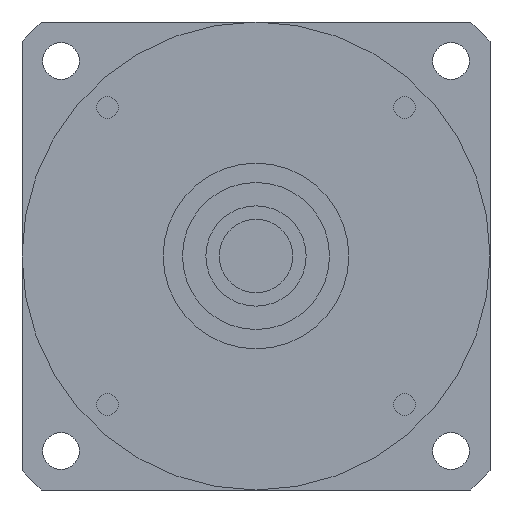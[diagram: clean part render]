
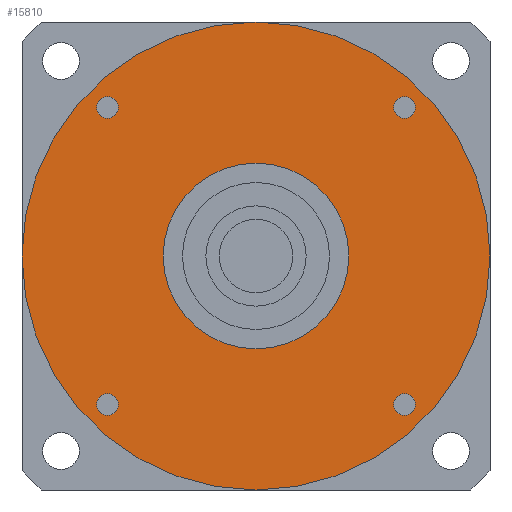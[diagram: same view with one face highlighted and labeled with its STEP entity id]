
A CAD part, left-side view. The second image highlights one B-rep face of the part: STEP entity #15810.
In plain terms, the highlighted planar face has unit normal (-1, 0, 0) as drawn and (0, 0, -1) by its records, which use the part's own axes.
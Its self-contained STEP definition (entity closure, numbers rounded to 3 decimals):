
#14690=CARTESIAN_POINT('',(-70.,0.,-59.701));
#14700=VERTEX_POINT('',#14690);
#14730=CARTESIAN_POINT('',(0.,0.,
-59.701));
#14740=DIRECTION('',(0.,0.,-1.));
#14750=DIRECTION('',(0.,-1.,0.));
#14760=AXIS2_PLACEMENT_3D('',#14730,#14740,#14750);
#14770=CIRCLE('',#14760,70.);
#14780=CARTESIAN_POINT('',(70.,0.,-59.701));
#14790=VERTEX_POINT('',#14780);
#14800=EDGE_CURVE('',#14700,#14790,#14770,.T.);
#14920=CARTESIAN_POINT('',(0.,0.,
-59.701));
#14930=DIRECTION('',(0.,0.,-1.));
#14940=DIRECTION('',(1.,0.,0.));
#14950=AXIS2_PLACEMENT_3D('',#14920,#14930,#14940);
#14960=PLANE('',#14950);
#14970=CARTESIAN_POINT('',(44.449,44.449,-59.701));
#14980=DIRECTION('',(0.,0.,-1.));
#14990=DIRECTION('',(0.,1.,0.));
#15000=AXIS2_PLACEMENT_3D('',#14970,#14980,#14990);
#15010=CIRCLE('',#15000,3.25);
#15020=CARTESIAN_POINT('',(44.449,47.699,-59.701));
#15030=VERTEX_POINT('',#15020);
#15040=CARTESIAN_POINT('',(44.449,41.199,-59.701));
#15050=VERTEX_POINT('',#15040);
#15060=EDGE_CURVE('',#15030,#15050,#15010,.T.);
#15070=ORIENTED_EDGE('',*,*,#15060,.F.);
#15080=EDGE_CURVE('',#15050,#15030,#15010,.T.);
#15090=ORIENTED_EDGE('',*,*,#15080,.F.);
#15100=EDGE_LOOP('',(#15090,#15070));
#15110=FACE_BOUND('',#15100,.T.);
#15120=CARTESIAN_POINT('',(-44.449,44.449,-59.701));
#15130=DIRECTION('',(0.,0.,-1.));
#15140=DIRECTION('',(-1.,0.,0.));
#15150=AXIS2_PLACEMENT_3D('',#15120,#15130,#15140);
#15160=CIRCLE('',#15150,3.25);
#15170=CARTESIAN_POINT('',(-47.699,44.449,-59.701));
#15180=VERTEX_POINT('',#15170);
#15190=CARTESIAN_POINT('',(-41.199,44.449,-59.701));
#15200=VERTEX_POINT('',#15190);
#15210=EDGE_CURVE('',#15180,#15200,#15160,.T.);
#15220=ORIENTED_EDGE('',*,*,#15210,.F.);
#15230=EDGE_CURVE('',#15200,#15180,#15160,.T.);
#15240=ORIENTED_EDGE('',*,*,#15230,.F.);
#15250=EDGE_LOOP('',(#15240,#15220));
#15260=FACE_BOUND('',#15250,.T.);
#15270=CARTESIAN_POINT('',(-44.449,-44.449,-59.701))
;
#15280=DIRECTION('',(0.,0.,-1.));
#15290=DIRECTION('',(0.,-1.,0.));
#15300=AXIS2_PLACEMENT_3D('',#15270,#15280,#15290);
#15310=CIRCLE('',#15300,3.25);
#15320=CARTESIAN_POINT('',(-44.449,-47.699,-59.701))
;
#15330=VERTEX_POINT('',#15320);
#15340=CARTESIAN_POINT('',(-44.449,-41.199,-59.701))
;
#15350=VERTEX_POINT('',#15340);
#15360=EDGE_CURVE('',#15330,#15350,#15310,.T.);
#15370=ORIENTED_EDGE('',*,*,#15360,.F.);
#15380=EDGE_CURVE('',#15350,#15330,#15310,.T.);
#15390=ORIENTED_EDGE('',*,*,#15380,.F.);
#15400=EDGE_LOOP('',(#15390,#15370));
#15410=FACE_BOUND('',#15400,.T.);
#15420=CARTESIAN_POINT('',(0.,0.,
-59.701));
#15430=DIRECTION('',(0.,0.,-1.));
#15440=DIRECTION('',(0.,1.,0.));
#15450=AXIS2_PLACEMENT_3D('',#15420,#15430,#15440);
#15460=CIRCLE('',#15450,27.76);
#15470=CARTESIAN_POINT('',(0.,27.76,-59.701));
#15480=VERTEX_POINT('',#15470);
#15490=CARTESIAN_POINT('',(0.,-27.76,-59.701));
#15500=VERTEX_POINT('',#15490);
#15510=EDGE_CURVE('',#15480,#15500,#15460,.T.);
#15520=ORIENTED_EDGE('',*,*,#15510,.F.);
#15530=EDGE_CURVE('',#15500,#15480,#15460,.T.);
#15540=ORIENTED_EDGE('',*,*,#15530,.F.);
#15550=EDGE_LOOP('',(#15540,#15520));
#15560=FACE_BOUND('',#15550,.T.);
#15570=CARTESIAN_POINT('',(44.449,-44.449,-59.701));
#15580=DIRECTION('',(0.,0.,-1.));
#15590=DIRECTION('',(1.,0.,0.));
#15600=AXIS2_PLACEMENT_3D('',#15570,#15580,#15590);
#15610=CIRCLE('',#15600,3.25);
#15620=CARTESIAN_POINT('',(47.699,-44.449,-59.701));
#15630=VERTEX_POINT('',#15620);
#15640=CARTESIAN_POINT('',(41.199,-44.449,-59.701));
#15650=VERTEX_POINT('',#15640);
#15660=EDGE_CURVE('',#15630,#15650,#15610,.T.);
#15670=ORIENTED_EDGE('',*,*,#15660,.F.);
#15680=EDGE_CURVE('',#15650,#15630,#15610,.T.);
#15690=ORIENTED_EDGE('',*,*,#15680,.F.);
#15700=EDGE_LOOP('',(#15690,#15670));
#15710=FACE_BOUND('',#15700,.T.);
#15720=ORIENTED_EDGE('',*,*,#14800,.T.);
#15730=CARTESIAN_POINT('',(0.,-70.,-59.701));
#15740=VERTEX_POINT('',#15730);
#15750=EDGE_CURVE('',#15740,#14700,#14770,.T.);
#15760=ORIENTED_EDGE('',*,*,#15750,.T.);
#15770=EDGE_CURVE('',#14790,#15740,#14770,.T.);
#15780=ORIENTED_EDGE('',*,*,#15770,.T.);
#15790=EDGE_LOOP('',(#15780,#15760,#15720));
#15800=FACE_OUTER_BOUND('',#15790,.T.);
#15810=ADVANCED_FACE('',(#15110,#15260,#15410,#15560,#15710,#15800),
#14960,.T.);
